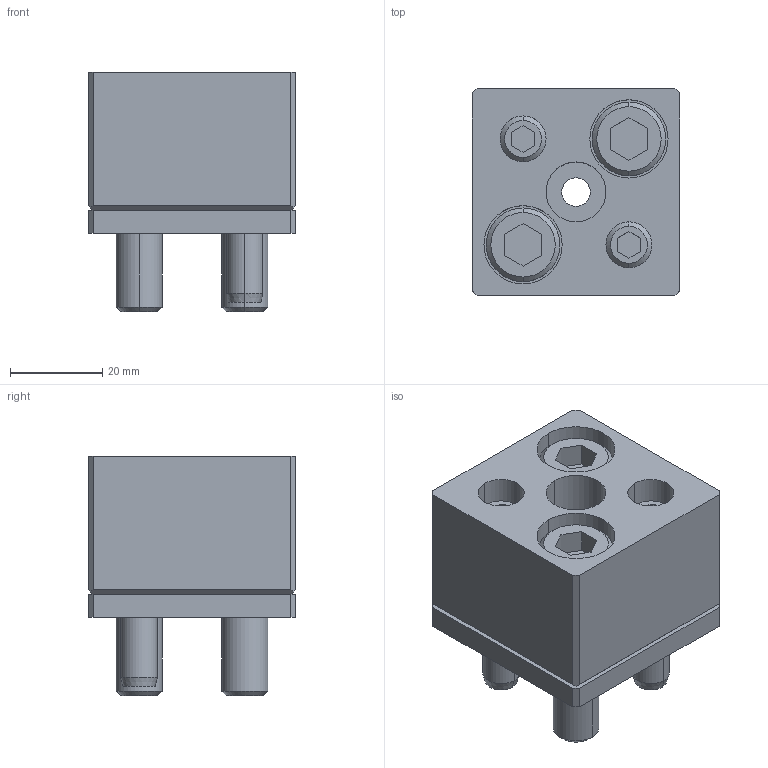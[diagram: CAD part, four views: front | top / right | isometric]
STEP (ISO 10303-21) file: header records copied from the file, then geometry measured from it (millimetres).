
FILE_DESCRIPTION(/* description */ (''),/* implementation_level */ '2;1');
FILE_NAME(/* name */ '3d_sa-fp13_03069_r00.stp',/* time_stamp */ '2011-01-10T14:11:29+09:00',/* author */ ('MISUMI'),/* organization */ (''),/* preprocessor_version */ 'ST-DEVELOPER v11',/* originating_system */ 'UGS - NX 5.0',/* authorisation */ '');
FILE_SCHEMA (('CONFIG_CONTROL_DESIGN'));
Length unit declared in the file: millimetre
Products named in the file (1): 3d_sa-fp13_03069_r00
Bounding box: 45 x 45 x 52 mm (x, y, z)
Volume: 64562.3 mm3; surface area: 26388.1 mm2
Topology: 8 solids, 8 shells, 159 faces, 362 edges, 233 vertices
Faces by surface type: plane 78, cylinder 55, cone 26
Entity records: 4622 total; most frequent: DIRECTION 814, CARTESIAN_POINT 802, ORIENTED_EDGE 724, EDGE_CURVE 362, AXIS2_PLACEMENT_3D 297, VERTEX_POINT 233, LINE 220, VECTOR 220
